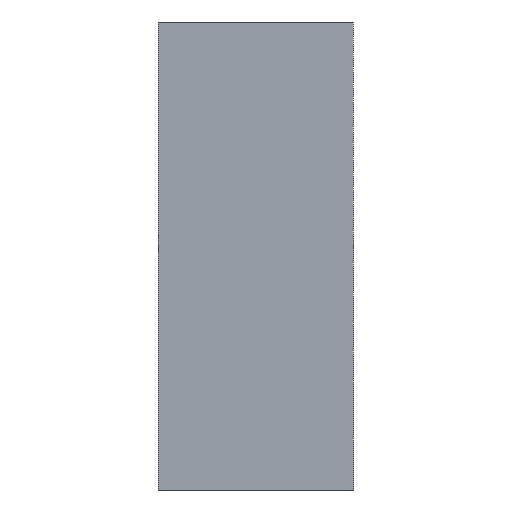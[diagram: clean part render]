
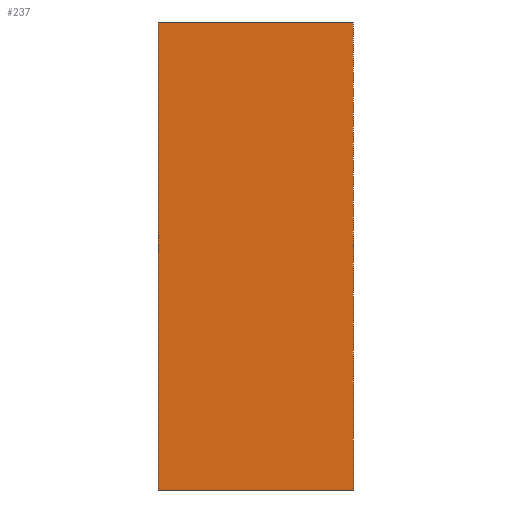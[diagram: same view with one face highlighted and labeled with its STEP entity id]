
A CAD part, front view. The second image highlights one B-rep face of the part: STEP entity #237.
In plain terms, the highlighted planar face has unit normal (0, -1, 0).
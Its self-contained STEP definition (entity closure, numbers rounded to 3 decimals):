
#21 = EDGE_CURVE('',#22,#24,#26,.T.);
#22 = VERTEX_POINT('',#23);
#23 = CARTESIAN_POINT('',(60.,-35.,-12.));
#24 = VERTEX_POINT('',#25);
#25 = CARTESIAN_POINT('',(60.,-35.,12.));
#26 = SURFACE_CURVE('',#27,(#31,#43),.PCURVE_S1.);
#27 = LINE('',#28,#29);
#28 = CARTESIAN_POINT('',(60.,-35.,-12.));
#29 = VECTOR('',#30,1.);
#30 = DIRECTION('',(0.,0.,1.));
#31 = PCURVE('',#32,#37);
#32 = PLANE('',#33);
#33 = AXIS2_PLACEMENT_3D('',#34,#35,#36);
#34 = CARTESIAN_POINT('',(60.,-35.,-12.));
#35 = DIRECTION('',(1.,0.,0.));
#36 = DIRECTION('',(0.,0.,1.));
#37 = DEFINITIONAL_REPRESENTATION('',(#38),#42);
#38 = LINE('',#39,#40);
#39 = CARTESIAN_POINT('',(0.,0.));
#40 = VECTOR('',#41,1.);
#41 = DIRECTION('',(1.,0.));
#42 = ( GEOMETRIC_REPRESENTATION_CONTEXT(2) 
PARAMETRIC_REPRESENTATION_CONTEXT() REPRESENTATION_CONTEXT('2D SPACE',''
  ) );
#43 = PCURVE('',#44,#49);
#44 = PLANE('',#45);
#45 = AXIS2_PLACEMENT_3D('',#46,#47,#48);
#46 = CARTESIAN_POINT('',(60.,-35.,-12.));
#47 = DIRECTION('',(0.,1.,0.));
#48 = DIRECTION('',(0.,0.,1.));
#49 = DEFINITIONAL_REPRESENTATION('',(#50),#54);
#50 = LINE('',#51,#52);
#51 = CARTESIAN_POINT('',(0.,0.));
#52 = VECTOR('',#53,1.);
#53 = DIRECTION('',(1.,0.));
#54 = ( GEOMETRIC_REPRESENTATION_CONTEXT(2) 
PARAMETRIC_REPRESENTATION_CONTEXT() REPRESENTATION_CONTEXT('2D SPACE',''
  ) );
#72 = PLANE('',#73);
#73 = AXIS2_PLACEMENT_3D('',#74,#75,#76);
#74 = CARTESIAN_POINT('',(60.,-35.,-12.));
#75 = DIRECTION('',(0.,0.,1.));
#76 = DIRECTION('',(1.,0.,0.));
#126 = PLANE('',#127);
#127 = AXIS2_PLACEMENT_3D('',#128,#129,#130);
#128 = CARTESIAN_POINT('',(60.,-35.,12.));
#129 = DIRECTION('',(0.,0.,1.));
#130 = DIRECTION('',(1.,0.,0.));
#141 = EDGE_CURVE('',#142,#144,#146,.T.);
#142 = VERTEX_POINT('',#143);
#143 = CARTESIAN_POINT('',(70.,-35.,-12.));
#144 = VERTEX_POINT('',#145);
#145 = CARTESIAN_POINT('',(70.,-35.,12.));
#146 = SURFACE_CURVE('',#147,(#151,#163),.PCURVE_S1.);
#147 = LINE('',#148,#149);
#148 = CARTESIAN_POINT('',(70.,-35.,-12.));
#149 = VECTOR('',#150,1.);
#150 = DIRECTION('',(0.,0.,1.));
#151 = PCURVE('',#152,#157);
#152 = PLANE('',#153);
#153 = AXIS2_PLACEMENT_3D('',#154,#155,#156);
#154 = CARTESIAN_POINT('',(70.,-35.,-12.));
#155 = DIRECTION('',(1.,0.,0.));
#156 = DIRECTION('',(0.,0.,1.));
#157 = DEFINITIONAL_REPRESENTATION('',(#158),#162);
#158 = LINE('',#159,#160);
#159 = CARTESIAN_POINT('',(0.,0.));
#160 = VECTOR('',#161,1.);
#161 = DIRECTION('',(1.,0.));
#162 = ( GEOMETRIC_REPRESENTATION_CONTEXT(2) 
PARAMETRIC_REPRESENTATION_CONTEXT() REPRESENTATION_CONTEXT('2D SPACE',''
  ) );
#163 = PCURVE('',#44,#164);
#164 = DEFINITIONAL_REPRESENTATION('',(#165),#169);
#165 = LINE('',#166,#167);
#166 = CARTESIAN_POINT('',(0.,10.));
#167 = VECTOR('',#168,1.);
#168 = DIRECTION('',(1.,0.));
#169 = ( GEOMETRIC_REPRESENTATION_CONTEXT(2) 
PARAMETRIC_REPRESENTATION_CONTEXT() REPRESENTATION_CONTEXT('2D SPACE',''
  ) );
#237 = ADVANCED_FACE('',(#238),#44,.F.);
#238 = FACE_BOUND('',#239,.F.);
#239 = EDGE_LOOP('',(#240,#261,#262,#283));
#240 = ORIENTED_EDGE('',*,*,#241,.F.);
#241 = EDGE_CURVE('',#22,#142,#242,.T.);
#242 = SURFACE_CURVE('',#243,(#247,#254),.PCURVE_S1.);
#243 = LINE('',#244,#245);
#244 = CARTESIAN_POINT('',(60.,-35.,-12.));
#245 = VECTOR('',#246,1.);
#246 = DIRECTION('',(1.,0.,0.));
#247 = PCURVE('',#44,#248);
#248 = DEFINITIONAL_REPRESENTATION('',(#249),#253);
#249 = LINE('',#250,#251);
#250 = CARTESIAN_POINT('',(0.,0.));
#251 = VECTOR('',#252,1.);
#252 = DIRECTION('',(0.,1.));
#253 = ( GEOMETRIC_REPRESENTATION_CONTEXT(2) 
PARAMETRIC_REPRESENTATION_CONTEXT() REPRESENTATION_CONTEXT('2D SPACE',''
  ) );
#254 = PCURVE('',#72,#255);
#255 = DEFINITIONAL_REPRESENTATION('',(#256),#260);
#256 = LINE('',#257,#258);
#257 = CARTESIAN_POINT('',(0.,0.));
#258 = VECTOR('',#259,1.);
#259 = DIRECTION('',(1.,0.));
#260 = ( GEOMETRIC_REPRESENTATION_CONTEXT(2) 
PARAMETRIC_REPRESENTATION_CONTEXT() REPRESENTATION_CONTEXT('2D SPACE',''
  ) );
#261 = ORIENTED_EDGE('',*,*,#21,.T.);
#262 = ORIENTED_EDGE('',*,*,#263,.T.);
#263 = EDGE_CURVE('',#24,#144,#264,.T.);
#264 = SURFACE_CURVE('',#265,(#269,#276),.PCURVE_S1.);
#265 = LINE('',#266,#267);
#266 = CARTESIAN_POINT('',(60.,-35.,12.));
#267 = VECTOR('',#268,1.);
#268 = DIRECTION('',(1.,0.,0.));
#269 = PCURVE('',#44,#270);
#270 = DEFINITIONAL_REPRESENTATION('',(#271),#275);
#271 = LINE('',#272,#273);
#272 = CARTESIAN_POINT('',(24.,0.));
#273 = VECTOR('',#274,1.);
#274 = DIRECTION('',(0.,1.));
#275 = ( GEOMETRIC_REPRESENTATION_CONTEXT(2) 
PARAMETRIC_REPRESENTATION_CONTEXT() REPRESENTATION_CONTEXT('2D SPACE',''
  ) );
#276 = PCURVE('',#126,#277);
#277 = DEFINITIONAL_REPRESENTATION('',(#278),#282);
#278 = LINE('',#279,#280);
#279 = CARTESIAN_POINT('',(0.,0.));
#280 = VECTOR('',#281,1.);
#281 = DIRECTION('',(1.,0.));
#282 = ( GEOMETRIC_REPRESENTATION_CONTEXT(2) 
PARAMETRIC_REPRESENTATION_CONTEXT() REPRESENTATION_CONTEXT('2D SPACE',''
  ) );
#283 = ORIENTED_EDGE('',*,*,#141,.F.);
